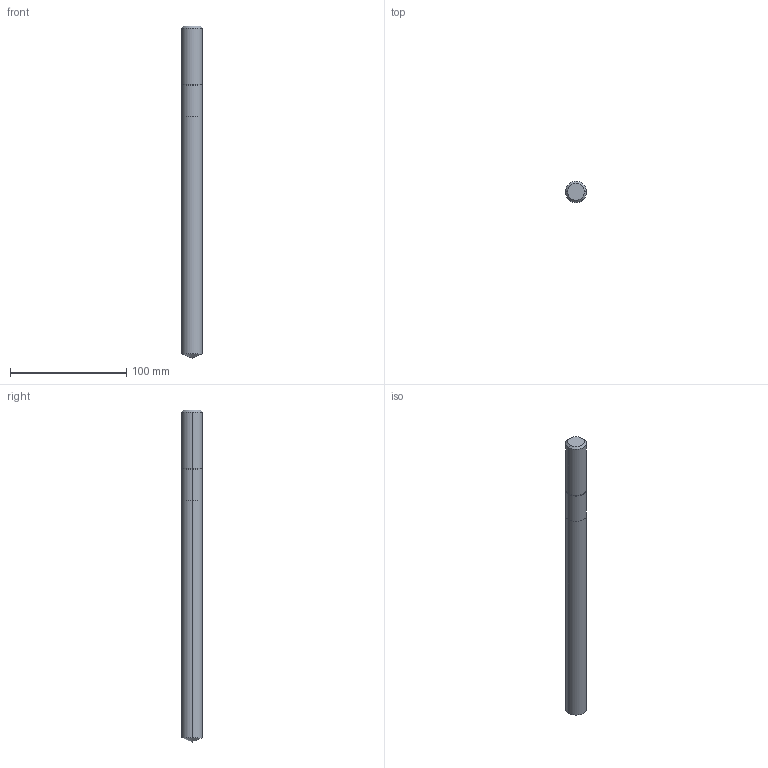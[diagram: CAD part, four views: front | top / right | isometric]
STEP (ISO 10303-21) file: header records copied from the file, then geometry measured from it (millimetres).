
FILE_DESCRIPTION (( 'STEP AP214' ), '1' );
FILE_NAME ('710.178.00_3D-model.step', '2022-02-22T17:08:47', ( '' ), ( '' ), 'SwSTEP 2.0', 'SolidWorks 2020', '' );
FILE_SCHEMA (( 'AUTOMOTIVE_DESIGN' ));
Length unit declared in the file: millimetre
Products named in the file (3): NOCUT-3D^Baugr67; CUT-3D^Baugr67; 710.178.00_3D-model
Assembly tree (2 placements, depth 2):
  710.178.00_3D-model
    CUT-3D^Baugr67
    NOCUT-3D^Baugr67
Bounding box: 18 x 18 x 285 mm (x, y, z)
Volume: 70507.4 mm3; surface area: 16720.9 mm2
Topology: 2 solids, 2 shells, 15 faces, 28 edges, 15 vertices
Faces by surface type: cylinder 6, cone 4, plane 3, torus 2
Entity records: 482 total; most frequent: DIRECTION 88, CARTESIAN_POINT 64, ORIENTED_EDGE 52, AXIS2_PLACEMENT_3D 39, EDGE_CURVE 26, CIRCLE 16, FACE_OUTER_BOUND 15, EDGE_LOOP 15
